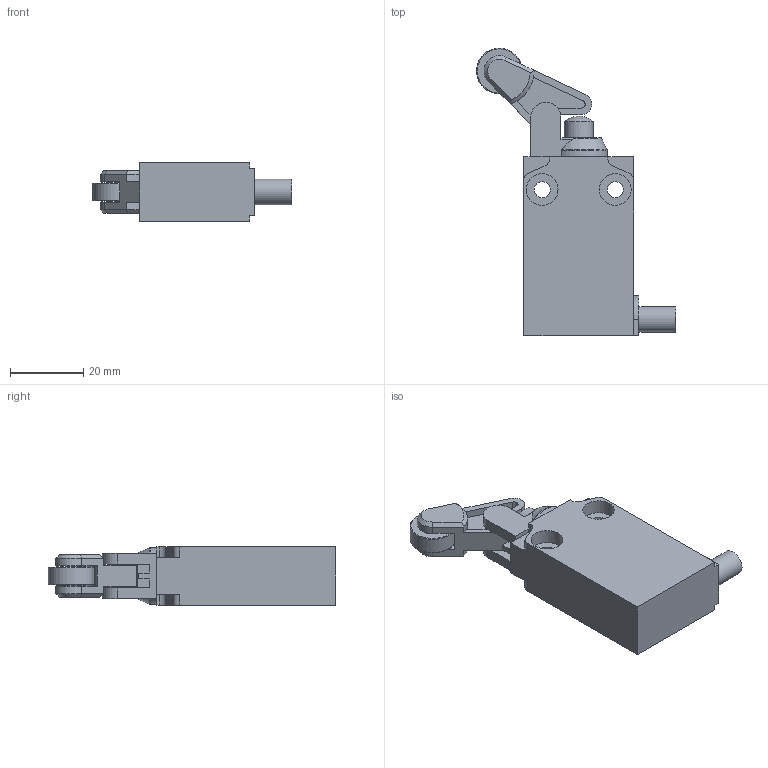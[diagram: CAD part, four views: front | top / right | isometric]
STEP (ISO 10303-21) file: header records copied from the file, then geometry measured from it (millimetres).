
FILE_DESCRIPTION(/* description */ (''),/* implementation_level */ '2;1');
FILE_NAME(/* name */ 'C:\Users\servizio.tecnico\Desktop\CADENAS\3D\EP1_STP\STP_EP1_G32U.stp',/* time_stamp */ '2017-09-01T08:21:21+02:00',/* author */ ('servizio.tecnico'),/* organization */ (''),/* preprocessor_version */ 'ST-DEVELOPER v16.1',/* originating_system */ 'Autodesk Inventor 2016',/* authorisation */ '');
FILE_SCHEMA (('AUTOMOTIVE_DESIGN { 1 0 10303 214 3 1 1 }'));
Length unit declared in the file: millimetre
Products named in the file (3): Product; EP1G32; BASE ASSI 
Assembly tree (2 placements, depth 3):
  BASE ASSI 
    EP1G32
      Product
Bounding box: 54.48 x 78.73 x 16 mm (x, y, z)
Volume: 26516 mm3; surface area: 10548.5 mm2
Topology: 5 solids, 5 shells, 137 faces, 345 edges, 227 vertices
Faces by surface type: plane 84, cylinder 43, cone 5, torus 4, sphere 1
Full cylindrical faces by diameter (mm): 4.4 x2, 7 x2, 7.8 x2, 7.95 x1, 8.05 x1, 8.7 x4, 12.5 x1
Entity records: 4230 total; most frequent: CARTESIAN_POINT 742, DIRECTION 706, ORIENTED_EDGE 646, EDGE_CURVE 323, AXIS2_PLACEMENT_3D 249, VERTEX_POINT 222, LINE 208, VECTOR 208
